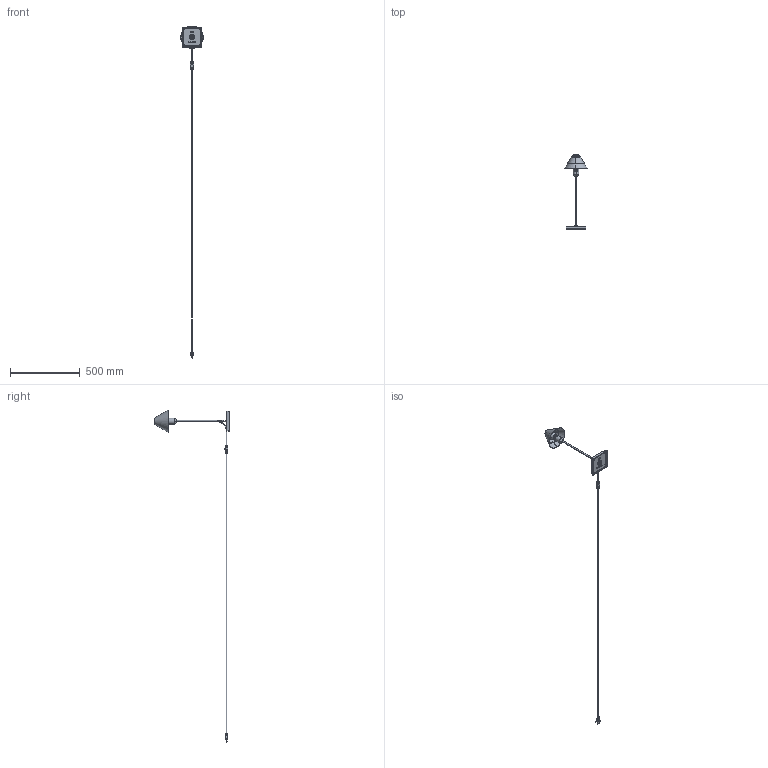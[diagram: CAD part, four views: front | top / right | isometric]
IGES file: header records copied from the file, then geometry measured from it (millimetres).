
Start section: SolidWorks IGES file using analytic representation for surfaces
Global section: file name: C:\Users\maria.romani.SANTACOLE\Desktop\GIRA\3D\PROVA\Gira_UL_3D.IGS; native system: SolidWorks 2016; preprocessor: SolidWorks 2016; author: maria.romani; date: 170419.113645; units: millimetre
Bounding box: 160 x 540.13 x 2376.41 mm (x, y, z)
Surface area: 285139.3 mm2 (no closed solid volume)
Topology: 0 solids, 0 shells, 1210 faces, 14086 edges, 14048 vertices
Faces by surface type: bspline 783, revolution 427
